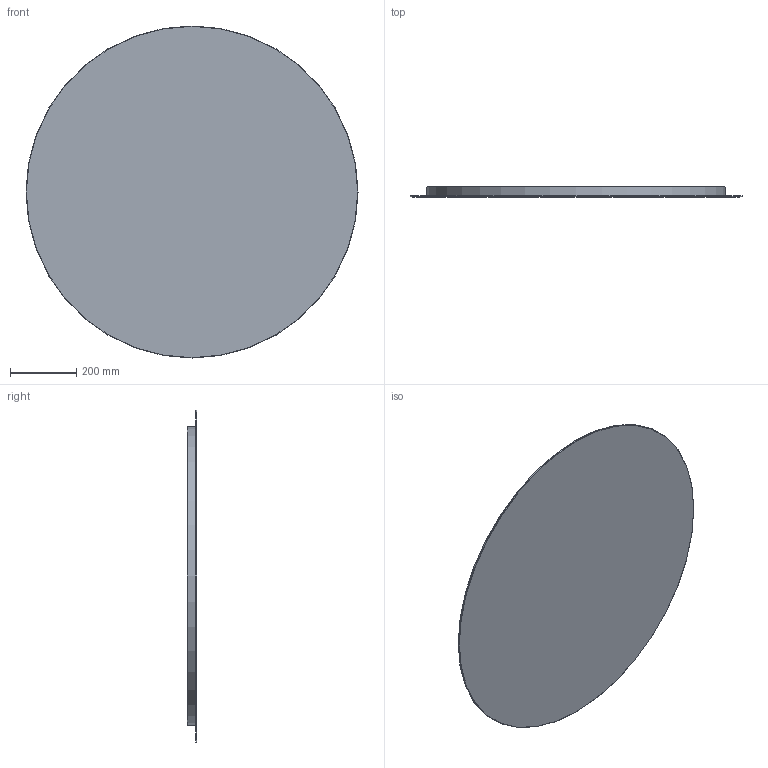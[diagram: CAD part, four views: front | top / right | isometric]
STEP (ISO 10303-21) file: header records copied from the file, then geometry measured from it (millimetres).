
FILE_DESCRIPTION(/* description */ ('Unknown'),/* implementation_level */ '2;1');
FILE_NAME(/* name */ 'Moon',/* time_stamp */ '2026-04-08T14:07:21+02:00',/* author */ ('Mariusz Kirko'),/* organization */ ('Kraft'),/* preprocessor_version */ 'ST-DEVELOPER v19.4',/* originating_system */ 'Solid Edge',/* authorisation */ 'Unknown');
FILE_SCHEMA (('AUTOMOTIVE_DESIGN {1 0 10303 214 3 1 1}'));
Length unit declared in the file: millimetre
Products named in the file (4): Z這瞠nie plus zawieszka; Lustro; Ramka HIPS; 500x26
Assembly tree (3 placements, depth 2):
  Z這瞠nie plus zawieszka
    Lustro
    Ramka HIPS
    500x26
Bounding box: 1000 x 30 x 1000 mm (x, y, z)
Volume: 3331784.9 mm3; surface area: 1831521.2 mm2
Topology: 3 solids, 3 shells, 114 faces, 324 edges, 216 vertices
Faces by surface type: plane 62, cylinder 51, torus 1
Full cylindrical faces by diameter (mm): 896 x1, 900 x1, 1000 x1
Entity records: 3903 total; most frequent: DIRECTION 658, CARTESIAN_POINT 652, ORIENTED_EDGE 638, EDGE_CURVE 319, AXIS2_PLACEMENT_3D 221, LINE 216, VECTOR 216, VERTEX_POINT 215
